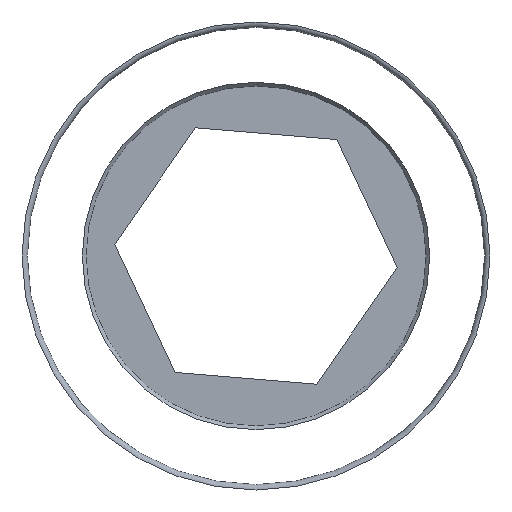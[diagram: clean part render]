
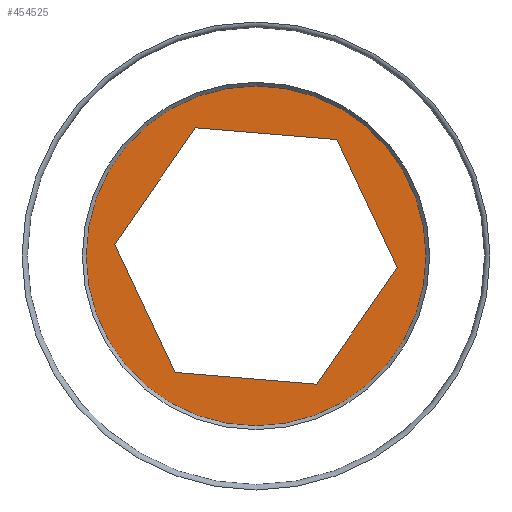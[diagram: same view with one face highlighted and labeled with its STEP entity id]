
A CAD part, left-side view. The second image highlights one B-rep face of the part: STEP entity #454525.
In plain terms, the highlighted planar face has unit normal (1, 0, 0).
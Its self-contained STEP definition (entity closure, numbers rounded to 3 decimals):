
#15186=FACE_BOUND('',#97087,.T.);
#37742=PLANE('',#503429);
#64977=FACE_OUTER_BOUND('',#97086,.T.);
#97086=EDGE_LOOP('',(#411581));
#97087=EDGE_LOOP('',(#411582,#411583,#411584,#411585,#411586,#411587));
#130807=LINE('',#923626,#164123);
#130808=LINE('',#923628,#164124);
#130809=LINE('',#923630,#164125);
#130810=LINE('',#923632,#164126);
#130811=LINE('',#923634,#164127);
#130812=LINE('',#923635,#164128);
#164123=VECTOR('',#630599,7.);
#164124=VECTOR('',#630600,7.);
#164125=VECTOR('',#630601,7.);
#164126=VECTOR('',#630602,7.);
#164127=VECTOR('',#630603,7.);
#164128=VECTOR('',#630604,7.);
#186413=CIRCLE('',#503428,0.662);
#227065=VERTEX_POINT('',#923620);
#227066=VERTEX_POINT('',#923624);
#227067=VERTEX_POINT('',#923625);
#227068=VERTEX_POINT('',#923627);
#227069=VERTEX_POINT('',#923629);
#227070=VERTEX_POINT('',#923631);
#227071=VERTEX_POINT('',#923633);
#289165=EDGE_CURVE('',#227065,#227065,#186413,.T.);
#289167=EDGE_CURVE('',#227066,#227067,#130807,.T.);
#289168=EDGE_CURVE('',#227068,#227066,#130808,.T.);
#289169=EDGE_CURVE('',#227069,#227068,#130809,.T.);
#289170=EDGE_CURVE('',#227070,#227069,#130810,.T.);
#289171=EDGE_CURVE('',#227071,#227070,#130811,.T.);
#289172=EDGE_CURVE('',#227067,#227071,#130812,.T.);
#411581=ORIENTED_EDGE('',*,*,#289165,.T.);
#411582=ORIENTED_EDGE('',*,*,#289167,.F.);
#411583=ORIENTED_EDGE('',*,*,#289168,.F.);
#411584=ORIENTED_EDGE('',*,*,#289169,.F.);
#411585=ORIENTED_EDGE('',*,*,#289170,.F.);
#411586=ORIENTED_EDGE('',*,*,#289171,.F.);
#411587=ORIENTED_EDGE('',*,*,#289172,.F.);
#454525=ADVANCED_FACE('',(#64977,#15186),#37742,.F.);
#503428=AXIS2_PLACEMENT_3D('',#923621,#630594,#630595);
#503429=AXIS2_PLACEMENT_3D('',#923623,#630597,#630598);
#630594=DIRECTION('center_axis',(1.,0.,0.));
#630595=DIRECTION('ref_axis',(0.,0.,1.));
#630597=DIRECTION('center_axis',(-1.,0.,0.));
#630598=DIRECTION('ref_axis',(0.,0.,1.));
#630599=DIRECTION('',(0.,0.427,0.904));
#630600=DIRECTION('',(0.,0.997,0.083));
#630601=DIRECTION('',(0.,0.57,-0.822));
#630602=DIRECTION('',(0.,-0.427,-0.904));
#630603=DIRECTION('',(0.,-0.997,-0.083));
#630604=DIRECTION('',(0.,-0.57,0.822));
#923620=CARTESIAN_POINT('',(-13.414,-14.848,-67.53));
#923621=CARTESIAN_POINT('Origin',(-13.414,-14.848,-66.868));
#923623=CARTESIAN_POINT('Origin',(-13.414,-14.848,-66.868));
#923624=CARTESIAN_POINT('',(-13.414,-14.533,-67.321));
#923625=CARTESIAN_POINT('',(-13.414,-14.298,-66.822));
#923626=CARTESIAN_POINT('',(-13.414,-14.357,-66.947));
#923627=CARTESIAN_POINT('',(-13.414,-15.083,-67.367));
#923628=CARTESIAN_POINT('',(-13.414,-14.671,-67.333));
#923629=CARTESIAN_POINT('',(-13.414,-15.398,-66.914));
#923630=CARTESIAN_POINT('',(-13.414,-15.162,-67.254));
#923631=CARTESIAN_POINT('',(-13.414,-15.162,-66.415));
#923632=CARTESIAN_POINT('',(-13.414,-15.339,-66.789));
#923633=CARTESIAN_POINT('',(-13.414,-14.612,-66.369));
#923634=CARTESIAN_POINT('',(-13.414,-15.025,-66.403));
#923635=CARTESIAN_POINT('',(-13.414,-14.534,-66.482));
